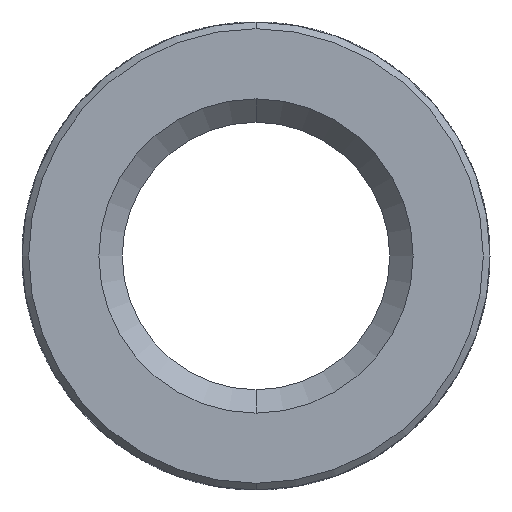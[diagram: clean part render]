
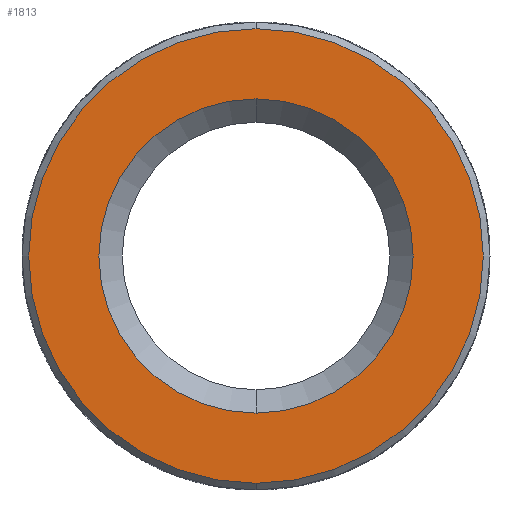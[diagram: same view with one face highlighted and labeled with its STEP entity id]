
A CAD part, front view. The second image highlights one B-rep face of the part: STEP entity #1813.
In plain terms, the highlighted planar face has unit normal (0, -1, 0).
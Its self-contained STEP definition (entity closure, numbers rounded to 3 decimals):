
#6 = AXIS2_PLACEMENT_3D ( 'NONE', #2640, #858, #1460 ) ;
#793 = CARTESIAN_POINT ( 'NONE',  ( 0., -6.7, 2.35 ) ) ;
#858 = DIRECTION ( 'NONE',  ( 0., -1., 0. ) ) ;
#918 = CARTESIAN_POINT ( 'NONE',  ( 0., -6.7, 0. ) ) ;
#930 = EDGE_LOOP ( 'NONE', ( #2692, #3196 ) ) ;
#1050 = FACE_BOUND ( 'NONE', #930, .T. ) ;
#1058 = DIRECTION ( 'NONE',  ( 0., 0., -1. ) ) ;
#1059 = EDGE_CURVE ( 'NONE', #1751, #1167, #3642, .T. ) ;
#1088 = AXIS2_PLACEMENT_3D ( 'NONE', #2249, #1959, #1058 ) ;
#1092 = DIRECTION ( 'NONE',  ( 0., -1., 0. ) ) ;
#1167 = VERTEX_POINT ( 'NONE', #793 ) ;
#1216 = EDGE_CURVE ( 'NONE', #3290, #1412, #2187, .T. ) ;
#1249 = CARTESIAN_POINT ( 'NONE',  ( 0., -6.7, -3.4 ) ) ;
#1292 = EDGE_CURVE ( 'NONE', #1412, #3290, #2989, .T. ) ;
#1335 = AXIS2_PLACEMENT_3D ( 'NONE', #3355, #1392, #1359 ) ;
#1359 = DIRECTION ( 'NONE',  ( 0., 0., -1. ) ) ;
#1392 = DIRECTION ( 'NONE',  ( 0., -1., 0. ) ) ;
#1412 = VERTEX_POINT ( 'NONE', #1249 ) ;
#1460 = DIRECTION ( 'NONE',  ( 0., 0., -1. ) ) ;
#1543 = CARTESIAN_POINT ( 'NONE',  ( 0., -6.7, 3.4 ) ) ;
#1606 = CARTESIAN_POINT ( 'NONE',  ( 0., -6.7, -2.35 ) ) ;
#1747 = AXIS2_PLACEMENT_3D ( 'NONE', #2579, #1092, #2601 ) ;
#1751 = VERTEX_POINT ( 'NONE', #1606 ) ;
#1813 = ADVANCED_FACE ( 'NONE', ( #1856, #1050 ), #3077, .T. ) ;
#1856 = FACE_OUTER_BOUND ( 'NONE', #2426, .T. ) ;
#1959 = DIRECTION ( 'NONE',  ( 0., 1., 0. ) ) ;
#2187 = CIRCLE ( 'NONE', #1747, 3.4 ) ;
#2249 = CARTESIAN_POINT ( 'NONE',  ( 0., -6.7, 0. ) ) ;
#2269 = AXIS2_PLACEMENT_3D ( 'NONE', #918, #3152, #2814 ) ;
#2390 = ORIENTED_EDGE ( 'NONE', *, *, #1292, .T. ) ;
#2397 = ORIENTED_EDGE ( 'NONE', *, *, #1216, .T. ) ;
#2426 = EDGE_LOOP ( 'NONE', ( #2397, #2390 ) ) ;
#2579 = CARTESIAN_POINT ( 'NONE',  ( 0., -6.7, 0. ) ) ;
#2601 = DIRECTION ( 'NONE',  ( 0., 0., -1. ) ) ;
#2640 = CARTESIAN_POINT ( 'NONE',  ( 0., -6.7, 0. ) ) ;
#2692 = ORIENTED_EDGE ( 'NONE', *, *, #1059, .T. ) ;
#2814 = DIRECTION ( 'NONE',  ( 0., 0., -1. ) ) ;
#2989 = CIRCLE ( 'NONE', #6, 3.4 ) ;
#3077 = PLANE ( 'NONE',  #1335 ) ;
#3152 = DIRECTION ( 'NONE',  ( 0., 1., 0. ) ) ;
#3196 = ORIENTED_EDGE ( 'NONE', *, *, #3700, .T. ) ;
#3290 = VERTEX_POINT ( 'NONE', #1543 ) ;
#3355 = CARTESIAN_POINT ( 'NONE',  ( 0., -6.7, 3.5 ) ) ;
#3642 = CIRCLE ( 'NONE', #2269, 2.35 ) ;
#3700 = EDGE_CURVE ( 'NONE', #1167, #1751, #3858, .T. ) ;
#3858 = CIRCLE ( 'NONE', #1088, 2.35 ) ;
